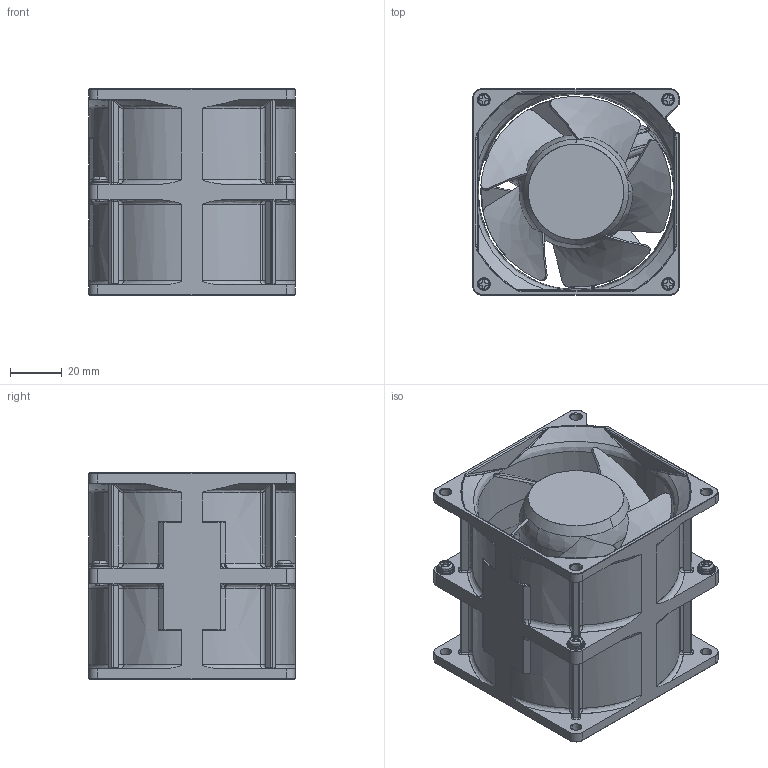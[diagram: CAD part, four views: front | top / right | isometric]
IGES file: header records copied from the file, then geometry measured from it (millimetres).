
Start section: SolidWorks IGES file using analytic representation for surfaces
Global section: file name: C:\Users\yanagisawa-atsushi\Desktop\CAD_DATA\Frame_3D-CAD\80妏80岤CRL僞僀僾\8080CRL RIBRESS.IGS; native system: SolidWorks 2016; preprocessor: SolidWorks 2016; author: Yanagisawa-Atsushi; date: 170126.152412; units: millimetre
Bounding box: 80 x 80 x 80 mm (x, y, z)
Surface area: 74674.1 mm2 (no closed solid volume)
Topology: 0 solids, 0 shells, 837 faces, 9440 edges, 9422 vertices
Faces by surface type: bspline 555, revolution 282
